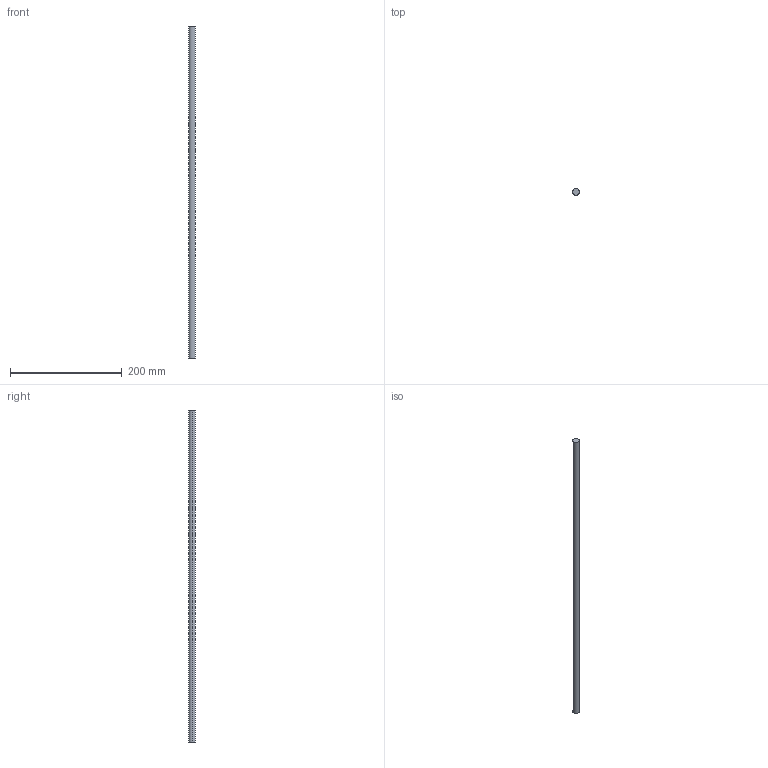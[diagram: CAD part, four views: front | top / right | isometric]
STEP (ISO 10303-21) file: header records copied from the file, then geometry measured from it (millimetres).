
FILE_DESCRIPTION (( 'STEP AP214' ), '1' );
FILE_NAME ('Magic Reling quer - S16_S17 - 700.step', '2010-09-07T14:56:08', ( 'grass' ), ( '' ), 'SwSTEP 2.0', 'SolidWorks 2010', '' );
FILE_SCHEMA (( 'AUTOMOTIVE_DESIGN' ));
Length unit declared in the file: millimetre
Products named in the file (1): Magic Reling quer - S16_S17 - 700
Bounding box: 12 x 12 x 595 mm (x, y, z)
Volume: 67292.9 mm3; surface area: 22657.2 mm2
Topology: 1 solids, 1 shells, 4 faces, 6 edges, 4 vertices
Faces by surface type: cylinder 2, plane 2
Entity records: 128 total; most frequent: DIRECTION 20, CARTESIAN_POINT 15, ORIENTED_EDGE 12, AXIS2_PLACEMENT_3D 9, EDGE_CURVE 6, VERTEX_POINT 4, ADVANCED_FACE 4, FACE_OUTER_BOUND 4
